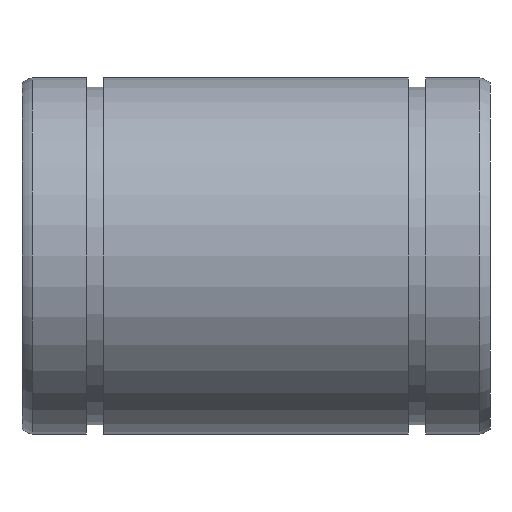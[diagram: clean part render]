
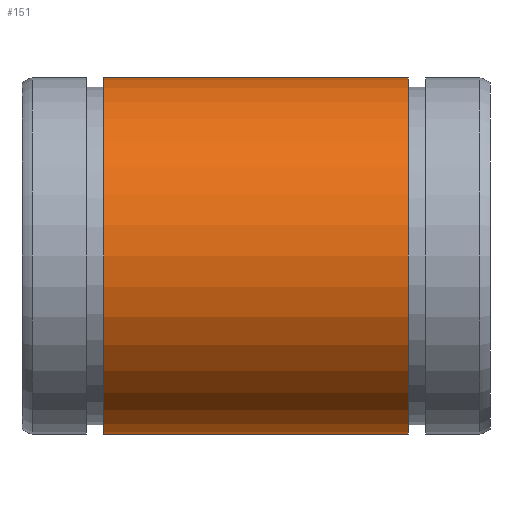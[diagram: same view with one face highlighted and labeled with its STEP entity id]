
A CAD part, front view. The second image highlights one B-rep face of the part: STEP entity #151.
In plain terms, the highlighted cylindrical face has radius 16 mm (diameter 32 mm), a full revolution.
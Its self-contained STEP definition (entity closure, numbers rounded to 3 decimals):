
#117=CARTESIAN_POINT('',(34.65,0.0,16.));
#118=VERTEX_POINT('',#117);
#119=CARTESIAN_POINT('',(34.65,0.0,0.));
#120=DIRECTION('',(-1.0,0.0,0.0));
#121=DIRECTION('',(0.0,0.0,1.0));
#122=AXIS2_PLACEMENT_3D('',#119,#120,#121);
#123=CIRCLE('',#122,16.);
#124=EDGE_CURVE('',#118,#118,#123,.T.);
#132=CARTESIAN_POINT('',(21.,0.0,0.));
#133=DIRECTION('',(-1.0,0.0,0.0));
#134=DIRECTION('',(0.0,0.0,1.0));
#135=AXIS2_PLACEMENT_3D('',#132,#133,#134);
#136=CYLINDRICAL_SURFACE('',#135,16.);
#137=CARTESIAN_POINT('',(7.35,0.0,16.));
#138=VERTEX_POINT('',#137);
#139=CARTESIAN_POINT('',(7.35,0.0,0.));
#140=DIRECTION('',(-1.0,0.0,0.0));
#141=DIRECTION('',(0.0,0.0,1.0));
#142=AXIS2_PLACEMENT_3D('',#139,#140,#141);
#143=CIRCLE('',#142,16.);
#144=EDGE_CURVE('',#138,#138,#143,.T.);
#145=ORIENTED_EDGE('',*,*,#144,.F.);
#146=EDGE_LOOP('',(#145));
#147=FACE_OUTER_BOUND('',#146,.T.);
#148=ORIENTED_EDGE('',*,*,#124,.T.);
#149=EDGE_LOOP('',(#148));
#150=FACE_BOUND('',#149,.T.);
#151=ADVANCED_FACE('',(#147,#150),#136,.T.);
